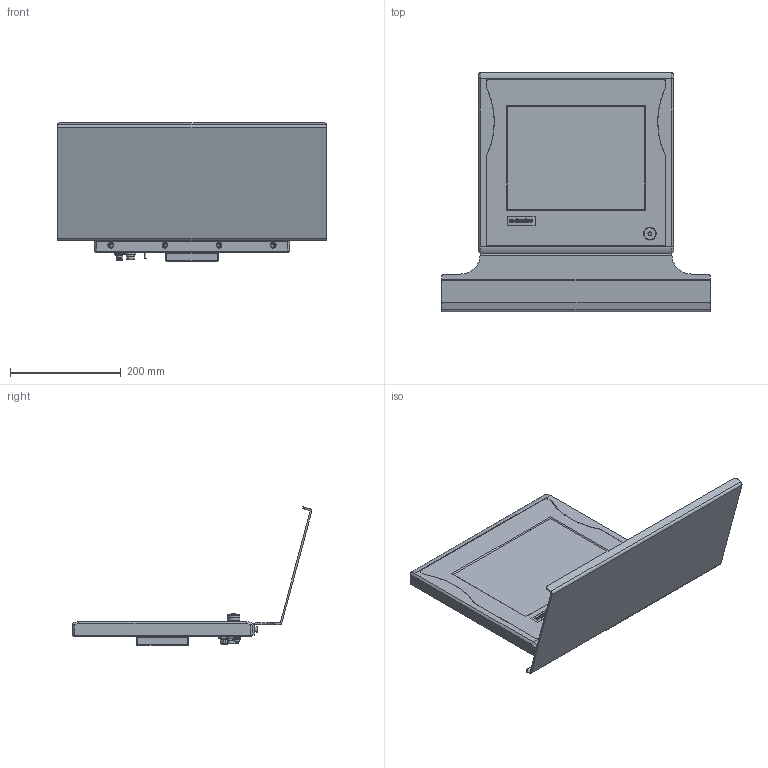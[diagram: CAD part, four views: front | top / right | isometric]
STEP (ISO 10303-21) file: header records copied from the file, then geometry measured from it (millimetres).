
FILE_DESCRIPTION(/* description */ (''),/* implementation_level */ '2;1');
FILE_NAME(/* name */ 'X:\0-inventor\0-3d-Teile\PC-Compo\solids\CP79xx\STEP-Ausgabe\CP7901-0021-M233-M400.stp',/* time_stamp */ '2017-02-17T15:33:20+01:00',/* author */ ('christiankreuzer'),/* organization */ ('Design-AG'),/* preprocessor_version */ 'ST-DEVELOPER v16.5',/* originating_system */ 'Autodesk Inventor 2017',/* authorisation */ '');
FILE_SCHEMA (('AUTOMOTIVE_DESIGN { 1 0 10303 214 3 1 1 }'));
Length unit declared in the file: millimetre
Products named in the file (1): CP7901-0021-M233-M400-Step
Bounding box: 485 x 432.47 x 249.63 mm (x, y, z)
Volume: 3602017 mm3; surface area: 557292 mm2
Topology: 2 solids, 3 shells, 682 faces, 1741 edges, 1115 vertices
Faces by surface type: plane 369, cylinder 159, cone 68, bspline 46, sphere 31, torus 9
Full cylindrical faces by diameter (mm): 0.5 x8, 1 x23, 3.242 x4, 4 x1, 6 x1, 6.4 x4, 6.6 x1, 7 x1, 7.6 x8, 7.9 x1, 8 x1, 9 x2, 10 x4, 11 x2, 12 x1, 16.01 x1, 18 x1, 18.5 x1, 20 x2, 22.4 x1, 22.5 x1, 23 x1
Entity records: 19567 total; most frequent: CARTESIAN_POINT 4532, ORIENTED_EDGE 3034, DIRECTION 2997, EDGE_CURVE 1517, AXIS2_PLACEMENT_3D 1049, VERTEX_POINT 1023, LINE 899, VECTOR 899
